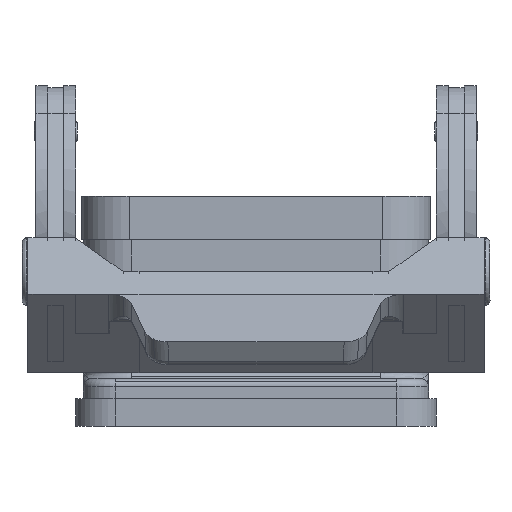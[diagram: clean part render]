
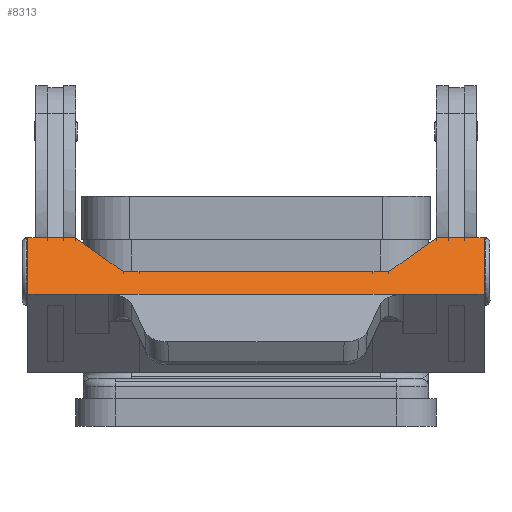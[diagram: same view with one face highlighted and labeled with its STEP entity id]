
A CAD part, left-side view. The second image highlights one B-rep face of the part: STEP entity #8313.
In plain terms, the highlighted free-form (B-spline) face has degree [1, 1] with [2, 2] control points.
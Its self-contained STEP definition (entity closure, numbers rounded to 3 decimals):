
#6542=CARTESIAN_POINT('',(-79.674,-18.552,16.674));
#6543=VERTEX_POINT('',#6542);
#6550=CARTESIAN_POINT('',(-79.675,-18.457,16.673));
#6551=VERTEX_POINT('',#6550);
#6552=CARTESIAN_POINT('',(-81.796,-18.552,14.553));
#6553=DIRECTION('',(-0.707,0.,0.707));
#6554=DIRECTION('',(0.561,0.609,0.561));
#6555=AXIS2_PLACEMENT_3D('',#6552,#6553,#6554);
#6556=CIRCLE('',#6555,3.);
#6557=EDGE_CURVE('',#6543,#6551,#6556,.T.);
#7629=CARTESIAN_POINT('',(-79.675,18.457,16.673));
#7630=VERTEX_POINT('',#7629);
#7637=CARTESIAN_POINT('',(-79.674,18.552,16.674));
#7638=VERTEX_POINT('',#7637);
#7639=CARTESIAN_POINT('',(-81.796,18.552,14.553));
#7640=DIRECTION('',(-0.707,0.,0.707));
#7641=DIRECTION('',(0.561,-0.609,0.561));
#7642=AXIS2_PLACEMENT_3D('',#7639,#7640,#7641);
#7643=CIRCLE('',#7642,3.0);
#7644=EDGE_CURVE('',#7638,#7630,#7643,.F.);
#7788=CARTESIAN_POINT('',(-79.675,22.75,16.673));
#7789=VERTEX_POINT('',#7788);
#7796=CARTESIAN_POINT('',(-79.675,28.75,16.673));
#7797=VERTEX_POINT('',#7796);
#7798=CARTESIAN_POINT('',(-79.675,22.75,16.673));
#7799=DIRECTION('',(0.0,1.0,0.0));
#7800=VECTOR('',#7799,6.0);
#7801=LINE('',#7798,#7800);
#7802=EDGE_CURVE('',#7789,#7797,#7801,.T.);
#7896=CARTESIAN_POINT('',(-79.674,-22.75,16.674));
#7897=VERTEX_POINT('',#7896);
#7904=CARTESIAN_POINT('',(-79.674,-18.552,16.674));
#7905=DIRECTION('',(0.0,-1.0,0.0));
#7906=VECTOR('',#7905,4.198);
#7907=LINE('',#7904,#7906);
#7908=EDGE_CURVE('',#6543,#7897,#7907,.T.);
#8097=CARTESIAN_POINT('',(-79.674,22.75,16.674));
#8098=VERTEX_POINT('',#8097);
#8105=CARTESIAN_POINT('',(-79.675,22.75,16.673));
#8106=DIRECTION('',(0.707,0.0,0.707));
#8107=VECTOR('',#8106,0.002);
#8108=LINE('',#8105,#8107);
#8109=EDGE_CURVE('',#7789,#8098,#8108,.T.);
#8120=CARTESIAN_POINT('',(-79.674,22.75,16.674));
#8121=DIRECTION('',(0.0,-1.0,0.0));
#8122=VECTOR('',#8121,4.198);
#8123=LINE('',#8120,#8122);
#8124=EDGE_CURVE('',#8098,#7638,#8123,.T.);
#8136=CARTESIAN_POINT('',(-79.675,-22.75,16.673));
#8137=VERTEX_POINT('',#8136);
#8138=CARTESIAN_POINT('',(-79.674,-22.75,16.674));
#8139=DIRECTION('',(-0.707,0.0,-0.707));
#8140=VECTOR('',#8139,0.002);
#8141=LINE('',#8138,#8140);
#8142=EDGE_CURVE('',#7897,#8137,#8141,.T.);
#8167=CARTESIAN_POINT('',(-72.604,28.75,23.744));
#8168=CARTESIAN_POINT('',(-79.675,28.75,16.673));
#8169=CARTESIAN_POINT('',(-72.604,-28.75,23.744));
#8170=CARTESIAN_POINT('',(-79.675,-28.75,16.673));
#8171=B_SPLINE_SURFACE_WITH_KNOTS('',1,1,((#8167,#8169),(#8168,#8170)),.UNSPECIFIED.,.F.,.F.,.U.,(2,2),(2,2),(0.0,10.),(0.0,57.5),.UNSPECIFIED.);
#8172=CARTESIAN_POINT('',(-79.675,14.75,16.673));
#8173=VERTEX_POINT('',#8172);
#8174=CARTESIAN_POINT('',(-79.675,14.75,16.673));
#8175=DIRECTION('',(0.0,1.0,0.0));
#8176=VECTOR('',#8175,3.707);
#8177=LINE('',#8174,#8176);
#8178=EDGE_CURVE('',#8173,#7630,#8177,.T.);
#8179=ORIENTED_EDGE('',*,*,#8178,.F.);
#8180=CARTESIAN_POINT('',(-79.674,14.75,16.674));
#8181=VERTEX_POINT('',#8180);
#8182=CARTESIAN_POINT('',(-79.674,14.75,16.674));
#8183=DIRECTION('',(-0.707,0.,-0.707));
#8184=VECTOR('',#8183,0.001);
#8185=LINE('',#8182,#8184);
#8186=EDGE_CURVE('',#8181,#8173,#8185,.T.);
#8187=ORIENTED_EDGE('',*,*,#8186,.F.);
#8188=CARTESIAN_POINT('',(-79.674,-14.75,16.674));
#8189=VERTEX_POINT('',#8188);
#8190=CARTESIAN_POINT('',(-79.674,-14.75,16.674));
#8191=DIRECTION('',(0.0,1.0,0.0));
#8192=VECTOR('',#8191,29.5);
#8193=LINE('',#8190,#8192);
#8194=EDGE_CURVE('',#8189,#8181,#8193,.T.);
#8195=ORIENTED_EDGE('',*,*,#8194,.F.);
#8196=CARTESIAN_POINT('',(-79.675,-14.75,16.673));
#8197=VERTEX_POINT('',#8196);
#8198=CARTESIAN_POINT('',(-79.674,-14.75,16.674));
#8199=DIRECTION('',(-0.707,0.,-0.707));
#8200=VECTOR('',#8199,0.001);
#8201=LINE('',#8198,#8200);
#8202=EDGE_CURVE('',#8189,#8197,#8201,.T.);
#8203=ORIENTED_EDGE('',*,*,#8202,.T.);
#8204=CARTESIAN_POINT('',(-79.675,-18.457,16.673));
#8205=DIRECTION('',(0.0,1.0,0.0));
#8206=VECTOR('',#8205,3.707);
#8207=LINE('',#8204,#8206);
#8208=EDGE_CURVE('',#6551,#8197,#8207,.T.);
#8209=ORIENTED_EDGE('',*,*,#8208,.F.);
#8210=ORIENTED_EDGE('',*,*,#6557,.F.);
#8211=ORIENTED_EDGE('',*,*,#7908,.T.);
#8212=ORIENTED_EDGE('',*,*,#8142,.T.);
#8213=CARTESIAN_POINT('',(-79.675,-28.75,16.673));
#8214=VERTEX_POINT('',#8213);
#8215=CARTESIAN_POINT('',(-79.675,-22.75,16.673));
#8216=DIRECTION('',(0.0,-1.0,0.0));
#8217=VECTOR('',#8216,6.0);
#8218=LINE('',#8215,#8217);
#8219=EDGE_CURVE('',#8137,#8214,#8218,.T.);
#8220=ORIENTED_EDGE('',*,*,#8219,.T.);
#8221=CARTESIAN_POINT('',(-72.604,-28.75,23.744));
#8222=VERTEX_POINT('',#8221);
#8223=CARTESIAN_POINT('',(-79.675,-28.75,16.673));
#8224=DIRECTION('',(0.707,0.0,0.707));
#8225=VECTOR('',#8224,10.);
#8226=LINE('',#8223,#8225);
#8227=EDGE_CURVE('',#8214,#8222,#8226,.T.);
#8228=ORIENTED_EDGE('',*,*,#8227,.T.);
#8229=CARTESIAN_POINT('',(-72.604,-22.75,23.744));
#8230=VERTEX_POINT('',#8229);
#8231=CARTESIAN_POINT('',(-72.604,-28.75,23.744));
#8232=DIRECTION('',(0.0,1.0,0.0));
#8233=VECTOR('',#8232,6.);
#8234=LINE('',#8231,#8233);
#8235=EDGE_CURVE('',#8222,#8230,#8234,.T.);
#8236=ORIENTED_EDGE('',*,*,#8235,.T.);
#8237=CARTESIAN_POINT('',(-76.847,-16.75,19.502));
#8238=VERTEX_POINT('',#8237);
#8239=CARTESIAN_POINT('',(-72.604,-22.75,23.744));
#8240=DIRECTION('',(-0.5,0.707,-0.5));
#8241=VECTOR('',#8240,8.485);
#8242=LINE('',#8239,#8241);
#8243=EDGE_CURVE('',#8230,#8238,#8242,.T.);
#8244=ORIENTED_EDGE('',*,*,#8243,.T.);
#8245=CARTESIAN_POINT('',(-76.847,-14.75,19.502));
#8246=VERTEX_POINT('',#8245);
#8247=CARTESIAN_POINT('',(-76.847,-16.75,19.502));
#8248=DIRECTION('',(0.0,1.0,0.0));
#8249=VECTOR('',#8248,2.);
#8250=LINE('',#8247,#8249);
#8251=EDGE_CURVE('',#8238,#8246,#8250,.T.);
#8252=ORIENTED_EDGE('',*,*,#8251,.T.);
#8253=CARTESIAN_POINT('',(-76.846,-14.75,19.502));
#8254=VERTEX_POINT('',#8253);
#8255=CARTESIAN_POINT('',(-76.846,-14.75,19.502));
#8256=DIRECTION('',(-0.707,0.,-0.707));
#8257=VECTOR('',#8256,0.001);
#8258=LINE('',#8255,#8257);
#8259=EDGE_CURVE('',#8254,#8246,#8258,.T.);
#8260=ORIENTED_EDGE('',*,*,#8259,.F.);
#8261=CARTESIAN_POINT('',(-76.846,14.75,19.502));
#8262=VERTEX_POINT('',#8261);
#8263=CARTESIAN_POINT('',(-76.846,-14.75,19.502));
#8264=DIRECTION('',(0.0,1.0,0.0));
#8265=VECTOR('',#8264,29.5);
#8266=LINE('',#8263,#8265);
#8267=EDGE_CURVE('',#8254,#8262,#8266,.T.);
#8268=ORIENTED_EDGE('',*,*,#8267,.T.);
#8269=CARTESIAN_POINT('',(-76.847,14.75,19.502));
#8270=VERTEX_POINT('',#8269);
#8271=CARTESIAN_POINT('',(-76.847,14.75,19.502));
#8272=DIRECTION('',(0.707,0.,0.707));
#8273=VECTOR('',#8272,0.001);
#8274=LINE('',#8271,#8273);
#8275=EDGE_CURVE('',#8270,#8262,#8274,.T.);
#8276=ORIENTED_EDGE('',*,*,#8275,.F.);
#8277=CARTESIAN_POINT('',(-76.847,16.75,19.502));
#8278=VERTEX_POINT('',#8277);
#8279=CARTESIAN_POINT('',(-76.847,16.75,19.502));
#8280=DIRECTION('',(0.0,-1.0,0.0));
#8281=VECTOR('',#8280,2.);
#8282=LINE('',#8279,#8281);
#8283=EDGE_CURVE('',#8278,#8270,#8282,.T.);
#8284=ORIENTED_EDGE('',*,*,#8283,.F.);
#8285=CARTESIAN_POINT('',(-72.604,22.75,23.744));
#8286=VERTEX_POINT('',#8285);
#8287=CARTESIAN_POINT('',(-72.604,22.75,23.744));
#8288=DIRECTION('',(-0.5,-0.707,-0.5));
#8289=VECTOR('',#8288,8.485);
#8290=LINE('',#8287,#8289);
#8291=EDGE_CURVE('',#8286,#8278,#8290,.T.);
#8292=ORIENTED_EDGE('',*,*,#8291,.F.);
#8293=CARTESIAN_POINT('',(-72.604,28.75,23.744));
#8294=VERTEX_POINT('',#8293);
#8295=CARTESIAN_POINT('',(-72.604,28.75,23.744));
#8296=DIRECTION('',(0.0,-1.0,0.0));
#8297=VECTOR('',#8296,6.);
#8298=LINE('',#8295,#8297);
#8299=EDGE_CURVE('',#8294,#8286,#8298,.T.);
#8300=ORIENTED_EDGE('',*,*,#8299,.F.);
#8301=CARTESIAN_POINT('',(-79.675,28.75,16.673));
#8302=DIRECTION('',(0.707,0.0,0.707));
#8303=VECTOR('',#8302,10.);
#8304=LINE('',#8301,#8303);
#8305=EDGE_CURVE('',#7797,#8294,#8304,.T.);
#8306=ORIENTED_EDGE('',*,*,#8305,.F.);
#8307=ORIENTED_EDGE('',*,*,#7802,.F.);
#8308=ORIENTED_EDGE('',*,*,#8109,.T.);
#8309=ORIENTED_EDGE('',*,*,#8124,.T.);
#8310=ORIENTED_EDGE('',*,*,#7644,.T.);
#8311=EDGE_LOOP('',(#8179,#8187,#8195,#8203,#8209,#8210,#8211,#8212,#8220,#8228,#8236,#8244,#8252,#8260,#8268,#8276,#8284,#8292,#8300,#8306,#8307,#8308,#8309,#8310));
#8312=FACE_OUTER_BOUND('',#8311,.T.);
#8313=ADVANCED_FACE('',(#8312),#8171,.T.);
